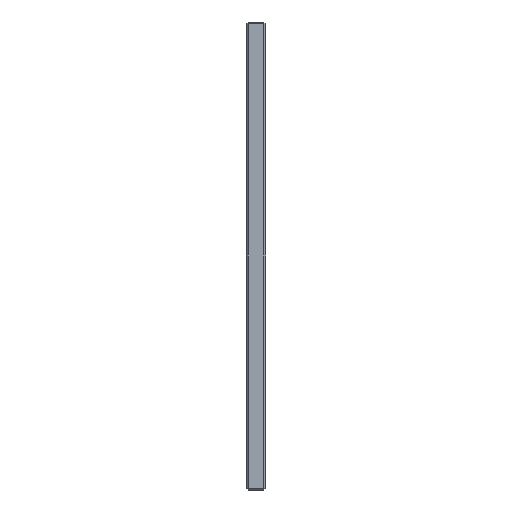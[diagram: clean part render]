
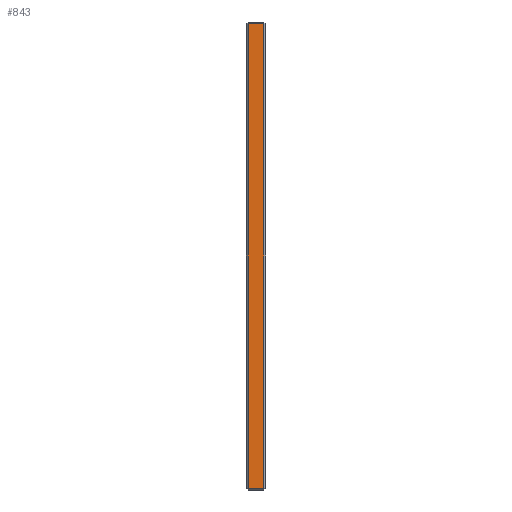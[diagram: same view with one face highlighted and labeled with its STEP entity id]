
A CAD part, left-side view. The second image highlights one B-rep face of the part: STEP entity #843.
In plain terms, the highlighted planar face has unit normal (-1, 0, 0).
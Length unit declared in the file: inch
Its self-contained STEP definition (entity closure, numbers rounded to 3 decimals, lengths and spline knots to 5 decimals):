
#57 = ORIENTED_EDGE ( 'NONE', *, *, #1748, .T. ) ;
#159 = CARTESIAN_POINT ( 'NONE',  ( -7.4375, 0.5, 5.825 ) ) ;
#187 = DIRECTION ( 'NONE',  ( 0., 0., 1. ) ) ;
#277 = EDGE_CURVE ( 'NONE', #1109, #1018, #379, .T. ) ;
#333 = LINE ( 'NONE', #963, #1073 ) ;
#379 = LINE ( 'NONE', #159, #447 ) ;
#447 = VECTOR ( 'NONE', #1209, 39.37008 ) ;
#450 = VECTOR ( 'NONE', #1226, 39.37008 ) ;
#811 = DIRECTION ( 'NONE',  ( 0., 0., -1. ) ) ;
#827 = FACE_OUTER_BOUND ( 'NONE', #1789, .T. ) ;
#836 = DIRECTION ( 'NONE',  ( 1., 0., 0. ) ) ;
#841 = CARTESIAN_POINT ( 'NONE',  ( -7.4375, 0.45, -5.825 ) ) ;
#843 = ADVANCED_FACE ( 'Placement Plane', ( #827 ), #1736, .F. ) ;
#892 = VERTEX_POINT ( 'NONE', #841 ) ;
#963 = CARTESIAN_POINT ( 'NONE',  ( -7.4375, 0.45, -5.875 ) ) ;
#981 = LINE ( 'NONE', #1378, #1549 ) ;
#983 = CARTESIAN_POINT ( 'NONE',  ( -7.4375, 0.5, -5.875 ) ) ;
#1018 = VERTEX_POINT ( 'NONE', #1644 ) ;
#1073 = VECTOR ( 'NONE', #1853, 39.37008 ) ;
#1109 = VERTEX_POINT ( 'NONE', #1635 ) ;
#1127 = EDGE_CURVE ( 'NONE', #1018, #892, #333, .T. ) ;
#1146 = LINE ( 'NONE', #1687, #450 ) ;
#1209 = DIRECTION ( 'NONE',  ( 0., 1., 0. ) ) ;
#1226 = DIRECTION ( 'NONE',  ( 0., -1., 0. ) ) ;
#1323 = VERTEX_POINT ( 'NONE', #1720 ) ;
#1378 = CARTESIAN_POINT ( 'NONE',  ( -7.4375, 0.05, -5.875 ) ) ;
#1433 = ORIENTED_EDGE ( 'NONE', *, *, #277, .T. ) ;
#1463 = ORIENTED_EDGE ( 'NONE', *, *, #1127, .T. ) ;
#1549 = VECTOR ( 'NONE', #187, 39.37008 ) ;
#1595 = AXIS2_PLACEMENT_3D ( 'NONE', #983, #836, #811 ) ;
#1635 = CARTESIAN_POINT ( 'NONE',  ( -7.4375, 0.05, 5.825 ) ) ;
#1644 = CARTESIAN_POINT ( 'NONE',  ( -7.4375, 0.45, 5.825 ) ) ;
#1687 = CARTESIAN_POINT ( 'NONE',  ( -7.4375, 0.5, -5.825 ) ) ;
#1720 = CARTESIAN_POINT ( 'NONE',  ( -7.4375, 0.05, -5.825 ) ) ;
#1736 = PLANE ( 'NONE',  #1595 ) ;
#1748 = EDGE_CURVE ( 'NONE', #892, #1323, #1146, .T. ) ;
#1787 = EDGE_CURVE ( 'NONE', #1323, #1109, #981, .T. ) ;
#1789 = EDGE_LOOP ( 'NONE', ( #1463, #57, #1915, #1433 ) ) ;
#1853 = DIRECTION ( 'NONE',  ( 0., 0., -1. ) ) ;
#1915 = ORIENTED_EDGE ( 'NONE', *, *, #1787, .T. ) ;
